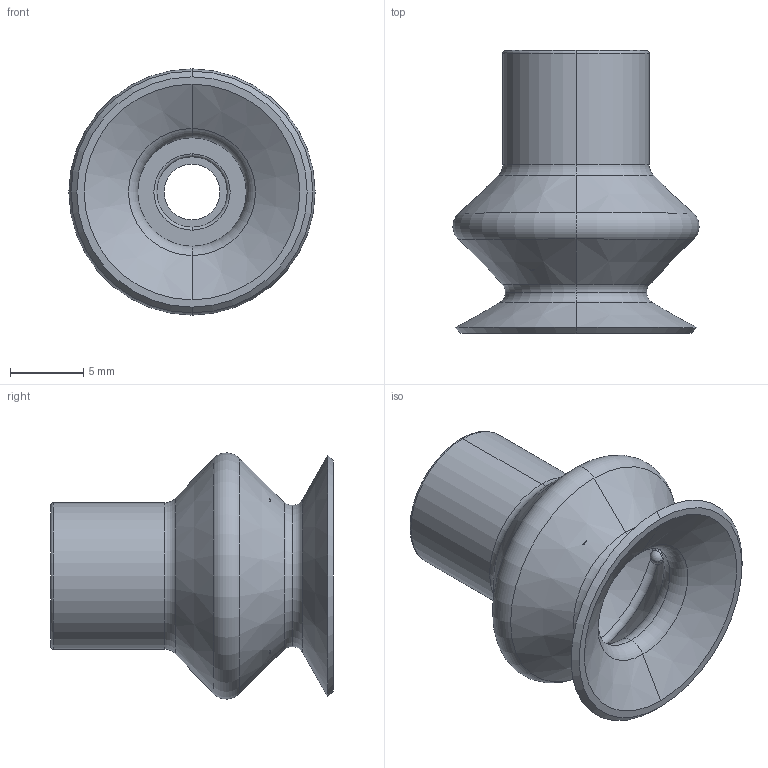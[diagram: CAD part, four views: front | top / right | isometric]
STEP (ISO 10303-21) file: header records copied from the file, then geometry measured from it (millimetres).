
FILE_DESCRIPTION (( 'STEP AP203' ), '1' );
FILE_NAME ('1_16--A.STEP', '2017-04-10T15:11:48', ( '' ), ( '' ), 'SwSTEP 2.0', 'SolidWorks 2016', '' );
FILE_SCHEMA (( 'CONFIG_CONTROL_DESIGN' ));
Length unit declared in the file: millimetre
Products named in the file (1): 1_16--A
Bounding box: 16.8 x 19.3 x 16.8 mm (x, y, z)
Volume: 1123.4 mm3; surface area: 1715.4 mm2
Topology: 1 solids, 1 shells, 65 faces, 139 edges, 79 vertices
Faces by surface type: torus 20, cone 16, cylinder 15, plane 8, sphere 6
Entity records: 1889 total; most frequent: CARTESIAN_POINT 382, DIRECTION 346, ORIENTED_EDGE 266, AXIS2_PLACEMENT_3D 159, EDGE_CURVE 133, CIRCLE 93, VERTEX_POINT 79, EDGE_LOOP 76
